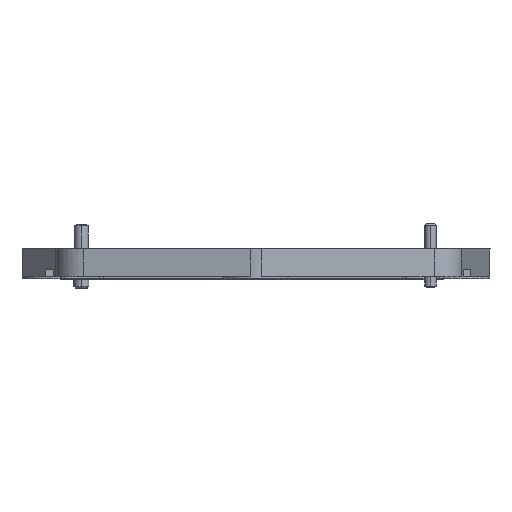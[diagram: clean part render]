
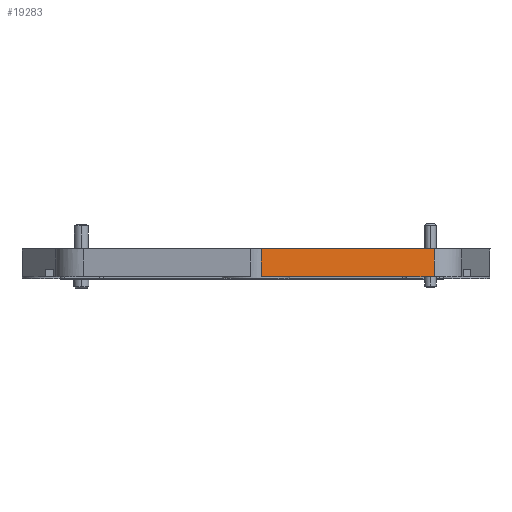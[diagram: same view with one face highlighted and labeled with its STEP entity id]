
A CAD part, top view. The second image highlights one B-rep face of the part: STEP entity #19283.
In plain terms, the highlighted planar face has unit normal (0.159, 0, 0.987).
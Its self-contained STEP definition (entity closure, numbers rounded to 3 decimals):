
#90 = CARTESIAN_POINT ( 'NONE',  ( 21.767, 3.835, 51.053 ) ) ;
#3070 = CARTESIAN_POINT ( 'NONE',  ( 43.93, 0.25, 47.493 ) ) ;
#3618 = VERTEX_POINT ( 'NONE', #3070 ) ;
#4561 = DIRECTION ( 'NONE',  ( 0.987, 0., -0.159 ) ) ;
#4904 = CARTESIAN_POINT ( 'NONE',  ( 21.767, 3.835, 51.053 ) ) ;
#6242 = VECTOR ( 'NONE', #44690, 1000. ) ;
#8343 = CARTESIAN_POINT ( 'NONE',  ( 21.767, 0.25, 51.053 ) ) ;
#11386 = EDGE_CURVE ( 'NONE', #33139, #3618, #13346, .T. ) ;
#11640 = CARTESIAN_POINT ( 'NONE',  ( 43.93, 3.969, 47.493 ) ) ;
#13346 = LINE ( 'NONE', #22628, #17291 ) ;
#14325 = CARTESIAN_POINT ( 'NONE',  ( 21.767, 0.25, 51.053 ) ) ;
#14561 = DIRECTION ( 'NONE',  ( 0.987, 0., -0.159 ) ) ;
#15729 = EDGE_LOOP ( 'NONE', ( #23139, #29560, #45898, #21892 ) ) ;
#17291 = VECTOR ( 'NONE', #4561, 1000. ) ;
#19283 = ADVANCED_FACE ( 'NONE', ( #30769 ), #28219, .T. ) ;
#21277 = DIRECTION ( 'NONE',  ( 0.987, 0., -0.159 ) ) ;
#21892 = ORIENTED_EDGE ( 'NONE', *, *, #33605, .T. ) ;
#22628 = CARTESIAN_POINT ( 'NONE',  ( 21.767, 0.25, 51.053 ) ) ;
#22690 = CARTESIAN_POINT ( 'NONE',  ( 21.767, 3.835, 51.053 ) ) ;
#23139 = ORIENTED_EDGE ( 'NONE', *, *, #11386, .T. ) ;
#24884 = VECTOR ( 'NONE', #34005, 1000. ) ;
#27666 = EDGE_CURVE ( 'NONE', #28099, #3618, #35135, .T. ) ;
#28099 = VERTEX_POINT ( 'NONE', #30175 ) ;
#28219 = PLANE ( 'NONE',  #37469 ) ;
#29560 = ORIENTED_EDGE ( 'NONE', *, *, #27666, .F. ) ;
#30175 = CARTESIAN_POINT ( 'NONE',  ( 43.93, 3.835, 47.493 ) ) ;
#30377 = VERTEX_POINT ( 'NONE', #22690 ) ;
#30769 = FACE_OUTER_BOUND ( 'NONE', #15729, .T. ) ;
#33139 = VERTEX_POINT ( 'NONE', #8343 ) ;
#33544 = LINE ( 'NONE', #90, #43129 ) ;
#33605 = EDGE_CURVE ( 'NONE', #30377, #33139, #37886, .T. ) ;
#34005 = DIRECTION ( 'NONE',  ( 0., -1., 0. ) ) ;
#35135 = LINE ( 'NONE', #11640, #6242 ) ;
#37469 = AXIS2_PLACEMENT_3D ( 'NONE', #14325, #42900, #21277 ) ;
#37886 = LINE ( 'NONE', #4904, #24884 ) ;
#42900 = DIRECTION ( 'NONE',  ( 0.159, 0., 0.987 ) ) ;
#43129 = VECTOR ( 'NONE', #14561, 1000. ) ;
#44690 = DIRECTION ( 'NONE',  ( 0., -1., 0. ) ) ;
#45870 = EDGE_CURVE ( 'NONE', #30377, #28099, #33544, .T. ) ;
#45898 = ORIENTED_EDGE ( 'NONE', *, *, #45870, .F. ) ;
